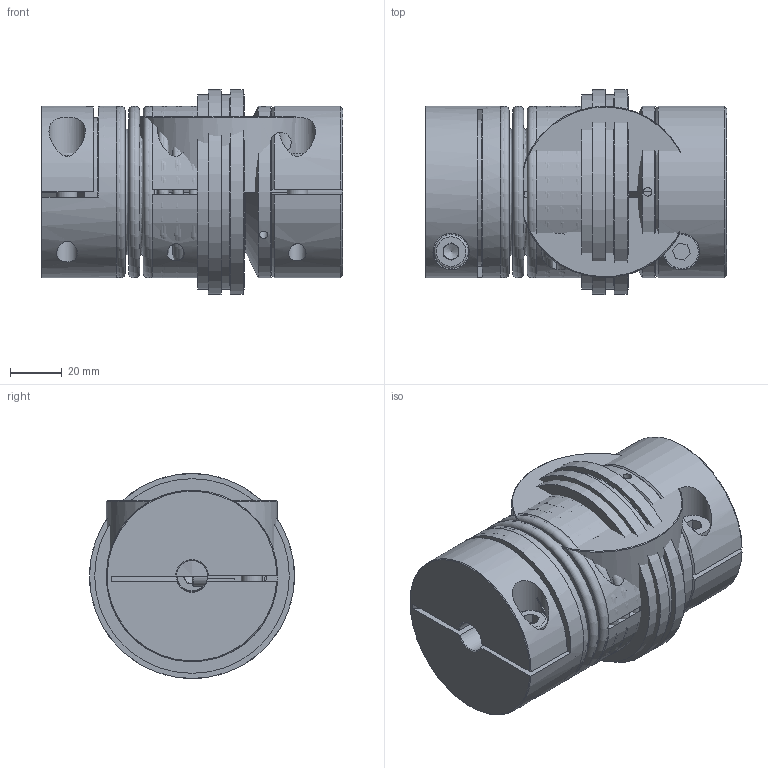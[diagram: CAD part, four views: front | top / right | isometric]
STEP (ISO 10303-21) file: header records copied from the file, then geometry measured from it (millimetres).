
FILE_DESCRIPTION( ( 'Unknown' ), '1' );
FILE_NAME( 'C:/Dokumente und Einstellungen/SKarpstein/Desktop/Korrigierte 3D Modelle/KBK-BKK-60-115.stp', 'Unknown', ( 'Unknown' ), ( 'Unknown' ), 'XStep 1.0', 'Unknown', ' ' );
FILE_SCHEMA( ( 'automotive_design' ) );
Length unit declared in the file: millimetre
Products named in the file (11): Assem1; Assem2; Zylinderschraube DIN 912_4; Stellring 60; Druckring 60; KBK L-K-60 Grundkörper; Klemmnabe 60; Flansch BK60; BL60_Standard_0; KN60_Standard_2; Socket Head Cap Screw_DIN_DIN 912 M8 x 25 --- 25N_2
Bounding box: 116.2 x 79 x 79 mm (x, y, z)
Volume: 593797.5 mm3; surface area: 258734.1 mm2
Topology: 19 solids, 19 shells, 369 faces, 744 edges, 487 vertices
Faces by surface type: plane 178, cylinder 90, torus 56, cone 45
Full cylindrical faces by diameter (mm): 3.242 x6, 4 x6, 6.647 x2, 8 x7, 8.5 x4, 12 x2, 13 x5, 14 x4, 15 x2, 32 x2, 33 x2, 35 x4, 42 x2, 46 x4, 46.5 x2, 47 x2, 56.3 x4, 57.3 x4, 61.3 x2, 66 x4, 75 x4, 79 x2
Entity records: 5153 total; most frequent: CARTESIAN_POINT 1339, DIRECTION 773, ORIENTED_EDGE 528, AXIS2_PLACEMENT_3D 347, EDGE_LOOP 318, EDGE_CURVE 264, FACE_OUTER_BOUND 243, VERTEX_POINT 219
